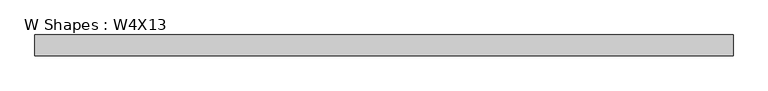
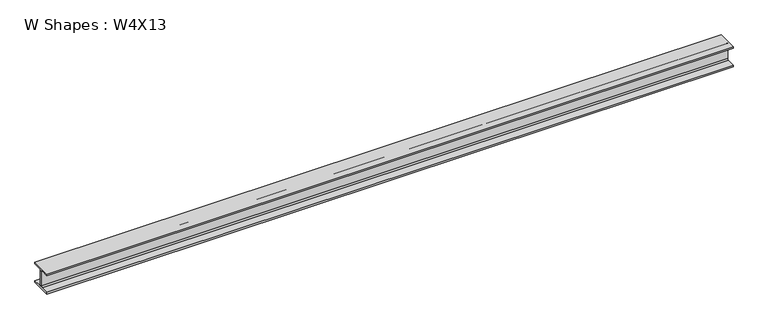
"""IFC4 building model written with IfcOpenShell, lengths in millimetres: beam geometry, W Shapes : W4X13."""

from ifc_helpers import new_model, si_unit, point, frame, frame_2d, origin, place, context, project, spatial, polyline, circle_curve, trimmed, segment, composite_curve, outline, extrude, source, transform, mapped, element, save


def w_shapes_w4x13_7e7178cb(model_context):
    return source(origin(), model_context, "Body", "SweptSolid", [
        extrude(outline(composite_curve([segment(polyline([(51.562, -44.069), (51.562, -52.832), (-51.562, -52.832), (-51.562, -44.069), (-9.906, -44.069)]), True, "CONTINUOUS"), segment(trimmed(circle_curve(frame_2d((-9.906, -37.719)), 6.35), [point((-9.906, -44.069))], [point((-3.556, -37.719))], True, "CARTESIAN"), True, "CONTINUOUS"), segment(polyline([(-3.556, -37.719), (-3.556, 37.719)]), True, "CONTINUOUS"), segment(trimmed(circle_curve(frame_2d((-9.906, 37.719)), 6.35), [point((-3.556, 37.719))], [point((-9.906, 44.069))], True, "CARTESIAN"), True, "CONTINUOUS"), segment(polyline([(-9.906, 44.069), (-51.562, 44.069), (-51.562, 52.832), (51.562, 52.832), (51.562, 44.069), (9.906, 44.069)]), True, "CONTINUOUS"), segment(trimmed(circle_curve(frame_2d((9.906, 37.719)), 6.35), [point((9.906, 44.069))], [point((3.556, 37.719))], True, "CARTESIAN"), True, "CONTINUOUS"), segment(polyline([(3.556, 37.719), (3.556, -37.719)]), True, "CONTINUOUS"), segment(trimmed(circle_curve(frame_2d((9.906, -37.719)), 6.35), [point((3.556, -37.719))], [point((9.906, -44.069))], True, "CARTESIAN"), True, "CONTINUOUS"), segment(polyline([(9.906, -44.069), (51.562, -44.069)]), True, "CONTINUOUS")], self_intersect=False)), frame((-1645.92, 0.0, 0.0), z_axis=(1.0, 0.0, 0.0), x_axis=(0.0, 1.0, 0.0)), (0.0, 0.0, 1.0), 3423.793),
    ])


if __name__ == "__main__":
    model = new_model("IFC4")
    model_context = context("Model", 3, world=origin())
    ifc_project = project(units=[si_unit("LENGTHUNIT", "METRE", prefix="MILLI")], contexts=[model_context])
    site = spatial("IfcSite", under=ifc_project)
    building = spatial("IfcBuilding", under=site)
    placement = place(None, origin())
    w_shapes_w4x13_shape = w_shapes_w4x13_7e7178cb(model_context)
    element("IfcBeam", 1, ObjectType="W Shapes : W4X13", at=placement, inside=building, context=model_context, shape_type="MappedRepresentation", body=[
        mapped(w_shapes_w4x13_shape, transform((0.0, 0.0, 0.0), x_axis=(1.0, 0.0, 0.0), y_axis=(0.0, 1.0, 0.0), z_axis=(0.0, 0.0, 1.0))),
    ])
    save(model, "model.ifc")
